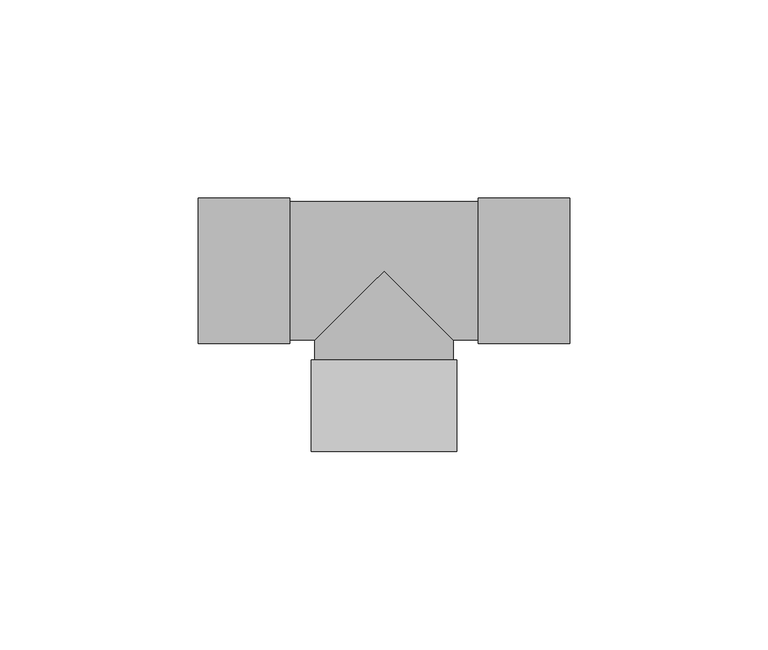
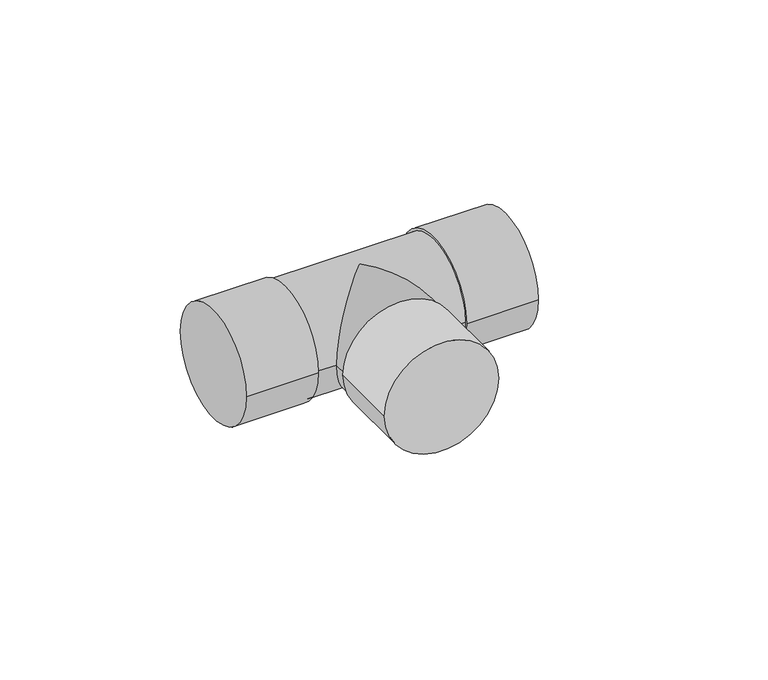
"""IFC4 building model written with IfcOpenShell, lengths in millimetres: pipe fitting geometry, Tê - Soldado - CU : Padrão."""

from ifc_helpers import new_model, si_unit, frame, origin, place, context, project, spatial, circle_curve, ellipse_curve, source, transform, mapped, element, save
from ifc_brep_helpers import plane_surface, cylinder_surface, advanced_brep


def pipe_fitting_3e2a63ee(model_context):
    return source(origin(), model_context, "Body", "AdvancedBrep", [
        advanced_brep(
        [(18.28, -45.5, 0.0), (-18.28, -45.5, 0.0), (18.28, -22.5, 0.0), (-18.28, -22.5, 0.0), (17.5, -22.5, 0.0), (-17.5, -22.5, 0.0), (-46.75, -18.28, 0.0), (-46.75, 18.28, 0.0), (-23.75, -18.28, 0.0), (-23.75, 18.28, 0.0), (-23.75, -17.5, 0.0), (-23.75, 17.5, 0.0), (23.75, 17.5, 0.0), (-17.5, -17.5, 0.0), (0.0, 0.0, 17.5), (17.5, -17.5, 0.0), (23.75, -17.5, 0.0), (0.0, 0.0, -17.5), (23.75, -18.28, 0.0), (23.75, 18.28, 0.0), (46.75, -18.28, 0.0), (46.75, 18.28, 0.0)],
        [
            (0, 1, circle_curve(frame((0.0, -45.5, 0.0), z_axis=(0.0, -1.0, 0.0), x_axis=(-1.0, 0.0, 0.0)), 18.28)),
            (1, 0, circle_curve(frame((0.0, -45.5, 0.0), z_axis=(0.0, -1.0, 0.0), x_axis=(-1.0, 0.0, 0.0)), 18.28)),
            (2, 3, circle_curve(frame((0.0, -22.5, 0.0), z_axis=(0.0, 1.0, 0.0), x_axis=(-1.0, 0.0, 0.0)), 18.28)),
            (3, 2, circle_curve(frame((0.0, -22.5, 0.0), z_axis=(0.0, 1.0, 0.0), x_axis=(-1.0, 0.0, 0.0)), 18.28)),
            (4, 5, circle_curve(frame((0.0, -22.5, 0.0), z_axis=(0.0, -1.0, 0.0), x_axis=(1.0, 0.0, 0.0)), 17.5)),
            (5, 4, circle_curve(frame((0.0, -22.5, 0.0), z_axis=(0.0, -1.0, 0.0), x_axis=(1.0, 0.0, 0.0)), 17.5)),
            (0, 2),
            (3, 1),
            (6, 7, circle_curve(frame((-46.75, 0.0, 0.0), z_axis=(-1.0, 0.0, 0.0), x_axis=(0.0, 1.0, 0.0)), 18.28)),
            (7, 6, circle_curve(frame((-46.75, 0.0, 0.0), z_axis=(-1.0, 0.0, 0.0), x_axis=(0.0, 1.0, 0.0)), 18.28)),
            (8, 9, circle_curve(frame((-23.75, 0.0, 0.0), z_axis=(1.0, 0.0, 0.0), x_axis=(0.0, 1.0, 0.0)), 18.28)),
            (9, 8, circle_curve(frame((-23.75, 0.0, 0.0), z_axis=(1.0, 0.0, 0.0), x_axis=(0.0, 1.0, 0.0)), 18.28)),
            (10, 11, circle_curve(frame((-23.75, 0.0, 0.0), z_axis=(-1.0, 0.0, 0.0), x_axis=(0.0, 1.0, 0.0)), 17.5)),
            (11, 10, circle_curve(frame((-23.75, 0.0, 0.0), z_axis=(-1.0, 0.0, 0.0), x_axis=(0.0, 1.0, 0.0)), 17.5)),
            (6, 8),
            (9, 7),
            (12, 11),
            (10, 13),
            (13, 14, ellipse_curve(frame((0.0, 0.0, 0.0), z_axis=(-0.7071067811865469, 0.7071067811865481, 0.0), x_axis=(-0.707106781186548, -0.7071067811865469, 0.0)), 24.7487373, 17.5)),
            (14, 15, ellipse_curve(frame((0.0, 0.0, 0.0), z_axis=(0.7071067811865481, 0.7071067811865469, 0.0), x_axis=(-0.707106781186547, 0.7071067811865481, 0.0)), 24.7487373, 17.5)),
            (15, 16),
            (16, 12, circle_curve(frame((23.75, 0.0, 0.0), z_axis=(-1.0, 0.0, 0.0), x_axis=(0.0, 1.0, 0.0)), 17.5)),
            (12, 16, circle_curve(frame((23.75, 0.0, 0.0), z_axis=(-1.0, 0.0, 0.0), x_axis=(0.0, 1.0, 0.0)), 17.5)),
            (15, 17, ellipse_curve(frame((0.0, 0.0, 0.0), z_axis=(0.7071067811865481, 0.7071067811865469, 0.0), x_axis=(-0.707106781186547, 0.7071067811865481, 0.0)), 24.7487373, 17.5)),
            (17, 13, ellipse_curve(frame((0.0, 0.0, 0.0), z_axis=(-0.7071067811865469, 0.7071067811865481, 0.0), x_axis=(-0.707106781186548, -0.7071067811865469, 0.0)), 24.7487373, 17.5)),
            (18, 19, circle_curve(frame((23.75, 0.0, 0.0), z_axis=(-1.0, 0.0, 0.0), x_axis=(0.0, 1.0, 0.0)), 18.28)),
            (19, 18, circle_curve(frame((23.75, 0.0, 0.0), z_axis=(-1.0, 0.0, 0.0), x_axis=(0.0, 1.0, 0.0)), 18.28)),
            (20, 21, circle_curve(frame((46.75, 0.0, 0.0), z_axis=(1.0, 0.0, 0.0), x_axis=(0.0, 1.0, 0.0)), 18.28)),
            (21, 20, circle_curve(frame((46.75, 0.0, 0.0), z_axis=(1.0, 0.0, 0.0), x_axis=(0.0, 1.0, 0.0)), 18.28)),
            (18, 20),
            (21, 19),
            (4, 15),
            (13, 5),
        ],
        [
            plane_surface(frame((0.0, -45.5, 0.0), z_axis=(0.0, -1.0, 0.0), x_axis=(0.0, 0.0, 1.0))),
            plane_surface(frame((0.0, -22.5, 0.0), z_axis=(0.0, 1.0, 0.0), x_axis=(0.0, 0.0, 1.0))),
            cylinder_surface(frame((0.0, -45.5, 0.0), z_axis=(0.0, -1.0, 0.0), x_axis=(-1.0, 0.0, 0.0)), 18.28),
            plane_surface(frame((-46.75, 0.0, 0.0), z_axis=(-1.0, 0.0, 0.0), x_axis=(0.0, 0.0, 1.0))),
            plane_surface(frame((-23.75, 0.0, 0.0), z_axis=(1.0, 0.0, 0.0), x_axis=(0.0, 0.0, 1.0))),
            cylinder_surface(frame((-46.75, 0.0, 0.0), z_axis=(-1.0, 0.0, 0.0), x_axis=(0.0, 1.0, 0.0)), 18.28),
            cylinder_surface(frame((-23.75, 0.0, 0.0), z_axis=(-1.0, 0.0, 0.0), x_axis=(0.0, 1.0, 0.0)), 17.5),
            plane_surface(frame((23.75, 0.0, 0.0), z_axis=(-1.0, 0.0, 0.0), x_axis=(0.0, 0.0, 1.0))),
            plane_surface(frame((46.75, 0.0, 0.0), z_axis=(1.0, 0.0, 0.0), x_axis=(0.0, 0.0, 1.0))),
            cylinder_surface(frame((23.75, 0.0, 0.0), z_axis=(-1.0, 0.0, 0.0), x_axis=(0.0, 1.0, 0.0)), 18.28),
            cylinder_surface(frame((0.0, 0.0, 0.0), z_axis=(0.0, 1.0, 0.0), x_axis=(1.0, 0.0, 0.0)), 17.5),
        ],
        [
            (0, [[1, 2]]),
            (1, [[3, 4], [5, 6]]),
            (2, [[-1, 7, -4, 8]]),
            (2, [[-2, -8, -3, -7]]),
            (3, [[9, 10]]),
            (4, [[11, 12], [13, 14]]),
            (5, [[-9, 15, -12, 16]]),
            (5, [[-10, -16, -11, -15]]),
            (6, [[17, -13, 18, 19, 20, 21, 22]]),
            (6, [[-17, 23, -21, 24, 25, -18, -14]]),
            (7, [[26, 27], [-22, -23]]),
            (8, [[28, 29]]),
            (9, [[-26, 30, -29, 31]]),
            (9, [[-27, -31, -28, -30]]),
            (10, [[32, -20, -19, 33, -5]]),
            (10, [[-32, -6, -33, -25, -24]]),
        ],
    ),
    ])


if __name__ == "__main__":
    model = new_model("IFC4")
    model_context = context("Model", 3, world=origin())
    ifc_project = project(units=[si_unit("LENGTHUNIT", "METRE", prefix="MILLI")], contexts=[model_context])
    site = spatial("IfcSite", under=ifc_project)
    building = spatial("IfcBuilding", under=site)
    placement = place(None, origin())
    pipe_fitting_shape = pipe_fitting_3e2a63ee(model_context)
    element("IfcPipeFitting", 1, ObjectType="Tê - Soldado - CU : Padrão", at=placement, inside=building, context=model_context, shape_type="MappedRepresentation", body=[
        mapped(pipe_fitting_shape, transform((0.0, 0.0, 0.0), x_axis=(1.0, 0.0, 0.0), y_axis=(0.0, 1.0, 0.0), z_axis=(0.0, 0.0, 1.0))),
    ])
    save(model, "model.ifc")
